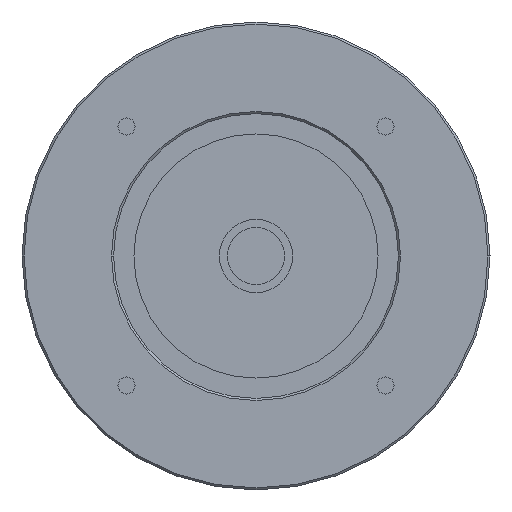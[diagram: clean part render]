
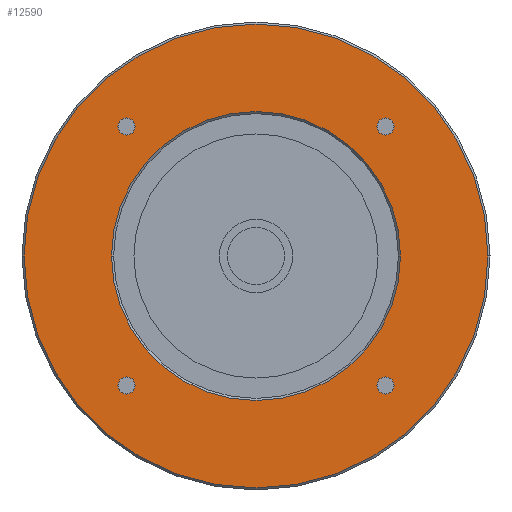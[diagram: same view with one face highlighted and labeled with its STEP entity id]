
A CAD part, left-side view. The second image highlights one B-rep face of the part: STEP entity #12590.
In plain terms, the highlighted planar face has unit normal (-1, 0, 0) as drawn and (0, 0, -1) by its records, which use the part's own axes.
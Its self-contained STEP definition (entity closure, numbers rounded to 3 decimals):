
#8820=CARTESIAN_POINT('',(31.82,33.92,-45.4));
#8830=VERTEX_POINT('',#8820);
#8880=CARTESIAN_POINT('',(31.82,31.82,-45.4));
#8890=DIRECTION('',(0.,0.,-1.));
#8900=DIRECTION('',(1.,0.,0.));
#8910=AXIS2_PLACEMENT_3D('',#8880,#8890,#8900);
#8920=CIRCLE('',#8910,2.1);
#8930=CARTESIAN_POINT('',(31.82,29.72,-45.4));
#8940=VERTEX_POINT('',#8930);
#8950=EDGE_CURVE('',#8940,#8830,#8920,.T.);
#11320=CARTESIAN_POINT('',(57.,0.,-45.4));
#11330=VERTEX_POINT('',#11320);
#11360=CARTESIAN_POINT('',(0.,0.,
-45.4));
#11370=DIRECTION('',(0.,0.,-1.));
#11380=DIRECTION('',(0.,-1.,0.));
#11390=AXIS2_PLACEMENT_3D('',#11360,#11370,#11380);
#11400=CIRCLE('',#11390,57.);
#11410=CARTESIAN_POINT('',(0.,-57.,-45.4));
#11420=VERTEX_POINT('',#11410);
#11430=EDGE_CURVE('',#11330,#11420,#11400,.T.);
#11450=CARTESIAN_POINT('',(-57.,0.,-45.4));
#11460=VERTEX_POINT('',#11450);
#11470=EDGE_CURVE('',#11420,#11460,#11400,.T.);
#11630=CARTESIAN_POINT('',(0.,0.,
-45.4));
#11640=DIRECTION('',(0.,0.,-1.));
#11650=DIRECTION('',(0.,-1.,0.));
#11660=AXIS2_PLACEMENT_3D('',#11630,#11640,#11650);
#11670=PLANE('',#11660);
#11680=EDGE_CURVE('',#11460,#11330,#11400,.T.);
#11690=ORIENTED_EDGE('',*,*,#11680,.T.);
#11700=ORIENTED_EDGE('',*,*,#11470,.T.);
#11710=ORIENTED_EDGE('',*,*,#11430,.T.);
#11720=EDGE_LOOP('',(#11710,#11700,#11690));
#11730=FACE_OUTER_BOUND('',#11720,.T.);
#11740=CARTESIAN_POINT('',(0.,0.,
-45.4));
#11750=DIRECTION('',(0.,0.,-1.));
#11760=DIRECTION('',(0.,-1.,0.));
#11770=AXIS2_PLACEMENT_3D('',#11740,#11750,#11760);
#11780=CIRCLE('',#11770,35.5);
#11790=CARTESIAN_POINT('',(0.,-35.5,-45.4));
#11800=VERTEX_POINT('',#11790);
#11810=CARTESIAN_POINT('',(-35.5,0.,-45.4));
#11820=VERTEX_POINT('',#11810);
#11830=EDGE_CURVE('',#11800,#11820,#11780,.T.);
#11840=ORIENTED_EDGE('',*,*,#11830,.F.);
#11850=CARTESIAN_POINT('',(35.5,0.,-45.4));
#11860=VERTEX_POINT('',#11850);
#11870=EDGE_CURVE('',#11820,#11860,#11780,.T.);
#11880=ORIENTED_EDGE('',*,*,#11870,.F.);
#11890=EDGE_CURVE('',#11860,#11800,#11780,.T.);
#11900=ORIENTED_EDGE('',*,*,#11890,.F.);
#11910=EDGE_LOOP('',(#11900,#11880,#11840));
#11920=FACE_BOUND('',#11910,.T.);
#11930=CARTESIAN_POINT('',(-31.82,-31.82,-45.4));
#11940=DIRECTION('',(0.,0.,-1.));
#11950=DIRECTION('',(1.,0.,0.));
#11960=AXIS2_PLACEMENT_3D('',#11930,#11940,#11950);
#11970=CIRCLE('',#11960,2.1);
#11980=CARTESIAN_POINT('',(-29.72,-31.82,-45.4));
#11990=VERTEX_POINT('',#11980);
#12000=CARTESIAN_POINT('',(-31.82,-33.92,-45.4));
#12010=VERTEX_POINT('',#12000);
#12020=EDGE_CURVE('',#11990,#12010,#11970,.T.);
#12030=ORIENTED_EDGE('',*,*,#12020,.F.);
#12040=CARTESIAN_POINT('',(-31.82,-29.72,-45.4));
#12050=VERTEX_POINT('',#12040);
#12060=EDGE_CURVE('',#12010,#12050,#11970,.T.);
#12070=ORIENTED_EDGE('',*,*,#12060,.F.);
#12080=EDGE_CURVE('',#12050,#11990,#11970,.T.);
#12090=ORIENTED_EDGE('',*,*,#12080,.F.);
#12100=EDGE_LOOP('',(#12090,#12070,#12030));
#12110=FACE_BOUND('',#12100,.T.);
#12120=CARTESIAN_POINT('',(-31.82,31.82,-45.4));
#12130=DIRECTION('',(0.,0.,-1.));
#12140=DIRECTION('',(1.,0.,0.));
#12150=AXIS2_PLACEMENT_3D('',#12120,#12130,#12140);
#12160=CIRCLE('',#12150,2.1);
#12170=CARTESIAN_POINT('',(-29.72,31.82,-45.4));
#12180=VERTEX_POINT('',#12170);
#12190=CARTESIAN_POINT('',(-31.82,29.72,-45.4));
#12200=VERTEX_POINT('',#12190);
#12210=EDGE_CURVE('',#12180,#12200,#12160,.T.);
#12220=ORIENTED_EDGE('',*,*,#12210,.F.);
#12230=CARTESIAN_POINT('',(-31.82,33.92,-45.4));
#12240=VERTEX_POINT('',#12230);
#12250=EDGE_CURVE('',#12200,#12240,#12160,.T.);
#12260=ORIENTED_EDGE('',*,*,#12250,.F.);
#12270=EDGE_CURVE('',#12240,#12180,#12160,.T.);
#12280=ORIENTED_EDGE('',*,*,#12270,.F.);
#12290=EDGE_LOOP('',(#12280,#12260,#12220));
#12300=FACE_BOUND('',#12290,.T.);
#12310=CARTESIAN_POINT('',(33.92,31.82,-45.4));
#12320=VERTEX_POINT('',#12310);
#12330=EDGE_CURVE('',#12320,#8940,#8920,.T.);
#12340=ORIENTED_EDGE('',*,*,#12330,.F.);
#12350=ORIENTED_EDGE('',*,*,#8950,.F.);
#12360=EDGE_CURVE('',#8830,#12320,#8920,.T.);
#12370=ORIENTED_EDGE('',*,*,#12360,.F.);
#12380=EDGE_LOOP('',(#12370,#12350,#12340));
#12390=FACE_BOUND('',#12380,.T.);
#12400=CARTESIAN_POINT('',(31.82,-31.82,-45.4));
#12410=DIRECTION('',(0.,0.,-1.));
#12420=DIRECTION('',(1.,0.,0.));
#12430=AXIS2_PLACEMENT_3D('',#12400,#12410,#12420);
#12440=CIRCLE('',#12430,2.1);
#12450=CARTESIAN_POINT('',(33.92,-31.82,-45.4));
#12460=VERTEX_POINT('',#12450);
#12470=CARTESIAN_POINT('',(31.82,-33.92,-45.4));
#12480=VERTEX_POINT('',#12470);
#12490=EDGE_CURVE('',#12460,#12480,#12440,.T.);
#12500=ORIENTED_EDGE('',*,*,#12490,.F.);
#12510=CARTESIAN_POINT('',(31.82,-29.72,-45.4));
#12520=VERTEX_POINT('',#12510);
#12530=EDGE_CURVE('',#12480,#12520,#12440,.T.);
#12540=ORIENTED_EDGE('',*,*,#12530,.F.);
#12550=EDGE_CURVE('',#12520,#12460,#12440,.T.);
#12560=ORIENTED_EDGE('',*,*,#12550,.F.);
#12570=EDGE_LOOP('',(#12560,#12540,#12500));
#12580=FACE_BOUND('',#12570,.T.);
#12590=ADVANCED_FACE('',(#11730,#11920,#12110,#12300,#12390,#12580),
#11670,.T.);
